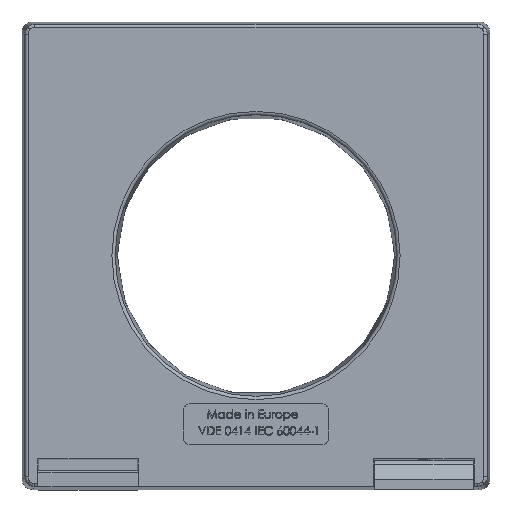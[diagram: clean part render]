
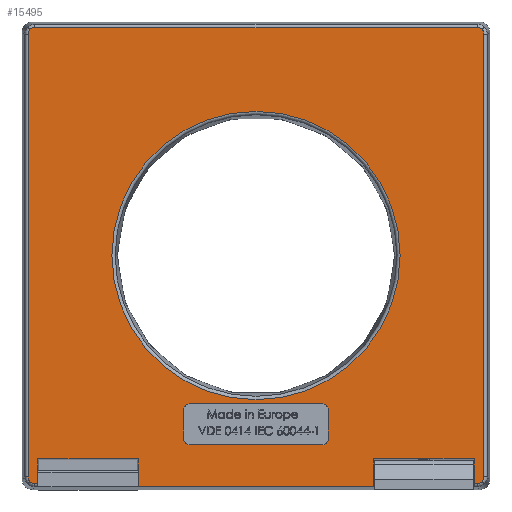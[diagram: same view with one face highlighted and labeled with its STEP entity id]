
A CAD part, top view. The second image highlights one B-rep face of the part: STEP entity #15495.
In plain terms, the highlighted planar face has unit normal (0, 0, 1).
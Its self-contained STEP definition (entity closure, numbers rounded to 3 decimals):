
#827=ELLIPSE('',#16362,0.927,0.848);
#829=ELLIPSE('',#16366,0.927,0.848);
#831=ELLIPSE('',#16370,0.927,0.848);
#833=ELLIPSE('',#16374,0.927,0.848);
#834=ELLIPSE('',#16385,0.927,0.848);
#835=ELLIPSE('',#16386,0.927,0.848);
#836=ELLIPSE('',#16387,0.927,0.848);
#837=ELLIPSE('',#16388,0.927,0.848);
#911=FACE_BOUND('',#1936,.T.);
#912=FACE_BOUND('',#1937,.T.);
#985=CIRCLE('',#16359,21.884);
#1000=CIRCLE('',#16389,1.);
#1001=CIRCLE('',#16390,1.);
#1002=CIRCLE('',#16391,1.);
#1003=CIRCLE('',#16392,1.);
#1060=FACE_OUTER_BOUND('',#1935,.T.);
#1935=EDGE_LOOP('',(#9981,#9982,#9983,#9984,#9985,#9986,#9987,#9988,#9989,
#9990,#9991,#9992,#9993,#9994,#9995,#9996,#9997,#9998,#9999,#10000));
#1936=EDGE_LOOP('',(#10001,#10002,#10003,#10004,#10005,#10006,#10007,#10008));
#1937=EDGE_LOOP('',(#10009));
#2844=LINE('',#19980,#4432);
#3018=LINE('',#21887,#4606);
#3019=LINE('',#21888,#4607);
#3020=LINE('',#21891,#4608);
#3021=LINE('',#21894,#4609);
#3022=LINE('',#21897,#4610);
#3023=LINE('',#21901,#4611);
#3024=LINE('',#21903,#4612);
#3025=LINE('',#21905,#4613);
#3026=LINE('',#21907,#4614);
#3027=LINE('',#21909,#4615);
#3028=LINE('',#21910,#4616);
#3029=LINE('',#21913,#4617);
#3030=LINE('',#21917,#4618);
#3031=LINE('',#21921,#4619);
#3032=LINE('',#21925,#4620);
#4432=VECTOR('',#17036,1000.);
#4606=VECTOR('',#17270,1000.);
#4607=VECTOR('',#17271,1000.);
#4608=VECTOR('',#17274,1000.);
#4609=VECTOR('',#17277,1000.);
#4610=VECTOR('',#17280,1000.);
#4611=VECTOR('',#17283,1000.);
#4612=VECTOR('',#17284,1000.);
#4613=VECTOR('',#17285,1000.);
#4614=VECTOR('',#17286,1000.);
#4615=VECTOR('',#17287,1000.);
#4616=VECTOR('',#17288,1000.);
#4617=VECTOR('',#17289,1000.);
#4618=VECTOR('',#17292,1000.);
#4619=VECTOR('',#17295,1000.);
#4620=VECTOR('',#17298,1000.);
#6020=VERTEX_POINT('',#19977);
#6021=VERTEX_POINT('',#19979);
#6024=VERTEX_POINT('',#19987);
#6027=VERTEX_POINT('',#20005);
#6028=VERTEX_POINT('',#20007);
#6031=VERTEX_POINT('',#20025);
#6032=VERTEX_POINT('',#20027);
#6035=VERTEX_POINT('',#20045);
#6036=VERTEX_POINT('',#20047);
#6039=VERTEX_POINT('',#20065);
#6040=VERTEX_POINT('',#20067);
#6302=VERTEX_POINT('',#21886);
#6303=VERTEX_POINT('',#21889);
#6304=VERTEX_POINT('',#21892);
#6305=VERTEX_POINT('',#21895);
#6306=VERTEX_POINT('',#21898);
#6307=VERTEX_POINT('',#21900);
#6308=VERTEX_POINT('',#21902);
#6309=VERTEX_POINT('',#21904);
#6310=VERTEX_POINT('',#21906);
#6311=VERTEX_POINT('',#21908);
#6312=VERTEX_POINT('',#21911);
#6313=VERTEX_POINT('',#21912);
#6314=VERTEX_POINT('',#21914);
#6315=VERTEX_POINT('',#21916);
#6316=VERTEX_POINT('',#21918);
#6317=VERTEX_POINT('',#21920);
#6318=VERTEX_POINT('',#21922);
#6319=VERTEX_POINT('',#21924);
#7484=EDGE_CURVE('',#6020,#6021,#2844,.T.);
#7489=EDGE_CURVE('',#6024,#6024,#985,.T.);
#7492=EDGE_CURVE('',#6028,#6027,#827,.T.);
#7496=EDGE_CURVE('',#6032,#6031,#829,.T.);
#7500=EDGE_CURVE('',#6036,#6035,#831,.T.);
#7504=EDGE_CURVE('',#6040,#6039,#833,.T.);
#7768=EDGE_CURVE('',#6302,#6020,#3018,.T.);
#7769=EDGE_CURVE('',#6302,#6028,#3019,.T.);
#7770=EDGE_CURVE('',#6027,#6303,#834,.T.);
#7771=EDGE_CURVE('',#6303,#6032,#3020,.T.);
#7772=EDGE_CURVE('',#6031,#6304,#835,.T.);
#7773=EDGE_CURVE('',#6304,#6036,#3021,.T.);
#7774=EDGE_CURVE('',#6035,#6305,#836,.T.);
#7775=EDGE_CURVE('',#6305,#6040,#3022,.T.);
#7776=EDGE_CURVE('',#6039,#6306,#837,.T.);
#7777=EDGE_CURVE('',#6306,#6307,#3023,.T.);
#7778=EDGE_CURVE('',#6308,#6307,#3024,.T.);
#7779=EDGE_CURVE('',#6309,#6308,#3025,.T.);
#7780=EDGE_CURVE('',#6310,#6309,#3026,.T.);
#7781=EDGE_CURVE('',#6310,#6311,#3027,.T.);
#7782=EDGE_CURVE('',#6021,#6311,#3028,.T.);
#7783=EDGE_CURVE('',#6312,#6313,#3029,.T.);
#7784=EDGE_CURVE('',#6312,#6314,#1000,.T.);
#7785=EDGE_CURVE('',#6315,#6314,#3030,.T.);
#7786=EDGE_CURVE('',#6315,#6316,#1001,.T.);
#7787=EDGE_CURVE('',#6317,#6316,#3031,.T.);
#7788=EDGE_CURVE('',#6317,#6318,#1002,.T.);
#7789=EDGE_CURVE('',#6319,#6318,#3032,.T.);
#7790=EDGE_CURVE('',#6319,#6313,#1003,.T.);
#9981=ORIENTED_EDGE('',*,*,#7768,.F.);
#9982=ORIENTED_EDGE('',*,*,#7769,.T.);
#9983=ORIENTED_EDGE('',*,*,#7492,.T.);
#9984=ORIENTED_EDGE('',*,*,#7770,.T.);
#9985=ORIENTED_EDGE('',*,*,#7771,.T.);
#9986=ORIENTED_EDGE('',*,*,#7496,.T.);
#9987=ORIENTED_EDGE('',*,*,#7772,.T.);
#9988=ORIENTED_EDGE('',*,*,#7773,.T.);
#9989=ORIENTED_EDGE('',*,*,#7500,.T.);
#9990=ORIENTED_EDGE('',*,*,#7774,.T.);
#9991=ORIENTED_EDGE('',*,*,#7775,.T.);
#9992=ORIENTED_EDGE('',*,*,#7504,.T.);
#9993=ORIENTED_EDGE('',*,*,#7776,.T.);
#9994=ORIENTED_EDGE('',*,*,#7777,.T.);
#9995=ORIENTED_EDGE('',*,*,#7778,.F.);
#9996=ORIENTED_EDGE('',*,*,#7779,.F.);
#9997=ORIENTED_EDGE('',*,*,#7780,.F.);
#9998=ORIENTED_EDGE('',*,*,#7781,.T.);
#9999=ORIENTED_EDGE('',*,*,#7782,.F.);
#10000=ORIENTED_EDGE('',*,*,#7484,.F.);
#10001=ORIENTED_EDGE('',*,*,#7783,.F.);
#10002=ORIENTED_EDGE('',*,*,#7784,.T.);
#10003=ORIENTED_EDGE('',*,*,#7785,.F.);
#10004=ORIENTED_EDGE('',*,*,#7786,.T.);
#10005=ORIENTED_EDGE('',*,*,#7787,.F.);
#10006=ORIENTED_EDGE('',*,*,#7788,.T.);
#10007=ORIENTED_EDGE('',*,*,#7789,.F.);
#10008=ORIENTED_EDGE('',*,*,#7790,.T.);
#10009=ORIENTED_EDGE('',*,*,#7489,.T.);
#14114=PLANE('',#16384);
#15495=ADVANCED_FACE('',(#1060,#911,#912),#14114,.T.);
#16359=AXIS2_PLACEMENT_3D('',#19989,#17046,#17047);
#16362=AXIS2_PLACEMENT_3D('',#20008,#17052,#17053);
#16366=AXIS2_PLACEMENT_3D('',#20028,#17060,#17061);
#16370=AXIS2_PLACEMENT_3D('',#20048,#17068,#17069);
#16374=AXIS2_PLACEMENT_3D('',#20068,#17076,#17077);
#16384=AXIS2_PLACEMENT_3D('',#21885,#17268,#17269);
#16385=AXIS2_PLACEMENT_3D('',#21890,#17272,#17273);
#16386=AXIS2_PLACEMENT_3D('',#21893,#17275,#17276);
#16387=AXIS2_PLACEMENT_3D('',#21896,#17278,#17279);
#16388=AXIS2_PLACEMENT_3D('',#21899,#17281,#17282);
#16389=AXIS2_PLACEMENT_3D('',#21915,#17290,#17291);
#16390=AXIS2_PLACEMENT_3D('',#21919,#17293,#17294);
#16391=AXIS2_PLACEMENT_3D('',#21923,#17296,#17297);
#16392=AXIS2_PLACEMENT_3D('',#21926,#17299,#17300);
#17036=DIRECTION('',(-1.,0.,0.));
#17046=DIRECTION('center_axis',(0.,0.,-1.));
#17047=DIRECTION('ref_axis',(1.,0.,0.));
#17052=DIRECTION('center_axis',(0.,0.,1.));
#17053=DIRECTION('ref_axis',(0.924,0.382,0.));
#17060=DIRECTION('center_axis',(0.,0.,1.));
#17061=DIRECTION('ref_axis',(0.382,-0.924,0.));
#17068=DIRECTION('center_axis',(0.,0.,1.));
#17069=DIRECTION('ref_axis',(0.924,0.382,0.));
#17076=DIRECTION('center_axis',(0.,0.,1.));
#17077=DIRECTION('ref_axis',(0.382,-0.924,0.));
#17268=DIRECTION('center_axis',(0.,0.,1.));
#17269=DIRECTION('ref_axis',(1.,0.,0.));
#17270=DIRECTION('',(0.,1.,0.));
#17271=DIRECTION('',(1.,0.,0.));
#17272=DIRECTION('center_axis',(0.,0.,1.));
#17273=DIRECTION('ref_axis',(-0.382,-0.924,0.));
#17274=DIRECTION('',(0.,1.,0.));
#17275=DIRECTION('center_axis',(0.,0.,1.));
#17276=DIRECTION('ref_axis',(0.924,-0.382,0.));
#17277=DIRECTION('',(-1.,0.,0.));
#17278=DIRECTION('center_axis',(0.,0.,1.));
#17279=DIRECTION('ref_axis',(-0.382,-0.924,0.));
#17280=DIRECTION('',(0.,-1.,0.));
#17281=DIRECTION('center_axis',(0.,0.,1.));
#17282=DIRECTION('ref_axis',(0.924,-0.382,0.));
#17283=DIRECTION('',(1.,0.,0.));
#17284=DIRECTION('',(0.,-1.,0.));
#17285=DIRECTION('',(-1.,0.,0.));
#17286=DIRECTION('',(0.,1.,0.));
#17287=DIRECTION('',(1.,0.,0.));
#17288=DIRECTION('',(0.,-1.,0.));
#17289=DIRECTION('',(0.,-1.,0.));
#17290=DIRECTION('center_axis',(0.,0.,-1.));
#17291=DIRECTION('ref_axis',(1.,0.,0.));
#17292=DIRECTION('',(-1.,0.,0.));
#17293=DIRECTION('center_axis',(0.,0.,-1.));
#17294=DIRECTION('ref_axis',(1.,0.,0.));
#17295=DIRECTION('',(0.,1.,0.));
#17296=DIRECTION('center_axis',(0.,0.,-1.));
#17297=DIRECTION('ref_axis',(1.,0.,0.));
#17298=DIRECTION('',(1.,0.,0.));
#17299=DIRECTION('center_axis',(0.,0.,-1.));
#17300=DIRECTION('ref_axis',(1.,0.,0.));
#19977=CARTESIAN_POINT('',(33.122,-30.878,22.5));
#19979=CARTESIAN_POINT('',(17.878,-30.878,22.5));
#19980=CARTESIAN_POINT('',(18.,-30.878,22.5));
#19987=CARTESIAN_POINT('',(-21.884,0.,22.5));
#19989=CARTESIAN_POINT('Origin',(0.,0.,22.5));
#20005=CARTESIAN_POINT('',(34.323,-34.323,22.5));
#20007=CARTESIAN_POINT('',(33.616,-34.616,22.5));
#20008=CARTESIAN_POINT('Origin',(33.674,-33.756,22.5));
#20025=CARTESIAN_POINT('',(34.323,34.323,22.5));
#20027=CARTESIAN_POINT('',(34.616,33.616,22.5));
#20028=CARTESIAN_POINT('Origin',(33.756,33.674,22.5));
#20045=CARTESIAN_POINT('',(-34.323,34.323,22.5));
#20047=CARTESIAN_POINT('',(-33.616,34.616,22.5));
#20048=CARTESIAN_POINT('Origin',(-33.674,33.756,22.5));
#20065=CARTESIAN_POINT('',(-34.323,-34.323,22.5));
#20067=CARTESIAN_POINT('',(-34.616,-33.616,22.5));
#20068=CARTESIAN_POINT('Origin',(-33.756,-33.674,22.5));
#21885=CARTESIAN_POINT('Origin',(-35.5,35.5,22.5));
#21886=CARTESIAN_POINT('',(33.122,-34.616,22.5));
#21887=CARTESIAN_POINT('',(33.122,-31.,22.5));
#21888=CARTESIAN_POINT('',(33.607,-34.616,22.5));
#21889=CARTESIAN_POINT('',(34.616,-33.616,22.5));
#21890=CARTESIAN_POINT('Origin',(33.756,-33.674,22.5));
#21891=CARTESIAN_POINT('',(34.616,33.607,22.5));
#21892=CARTESIAN_POINT('',(33.616,34.616,22.5));
#21893=CARTESIAN_POINT('Origin',(33.674,33.756,22.5));
#21894=CARTESIAN_POINT('',(-33.607,34.616,22.5));
#21895=CARTESIAN_POINT('',(-34.616,33.616,22.5));
#21896=CARTESIAN_POINT('Origin',(-33.756,33.674,22.5));
#21897=CARTESIAN_POINT('',(-34.616,-33.607,22.5));
#21898=CARTESIAN_POINT('',(-33.616,-34.616,22.5));
#21899=CARTESIAN_POINT('Origin',(-33.674,-33.756,22.5));
#21900=CARTESIAN_POINT('',(-33.122,-34.616,22.5));
#21901=CARTESIAN_POINT('',(-33.122,-34.616,22.5));
#21902=CARTESIAN_POINT('',(-33.122,-30.878,22.5));
#21903=CARTESIAN_POINT('',(-33.122,-31.,22.5));
#21904=CARTESIAN_POINT('',(-17.878,-30.878,22.5));
#21905=CARTESIAN_POINT('',(-18.,-30.878,22.5));
#21906=CARTESIAN_POINT('',(-17.878,-35.107,22.5));
#21907=CARTESIAN_POINT('',(-17.878,-31.,22.5));
#21908=CARTESIAN_POINT('',(17.878,-35.107,22.5));
#21909=CARTESIAN_POINT('',(-35.5,-35.107,22.5));
#21910=CARTESIAN_POINT('',(17.878,-31.,22.5));
#21911=CARTESIAN_POINT('',(-11.,-23.5,22.5));
#21912=CARTESIAN_POINT('',(-11.,-27.75,22.5));
#21913=CARTESIAN_POINT('',(-11.,-22.5,22.5));
#21914=CARTESIAN_POINT('',(-10.,-22.5,22.5));
#21915=CARTESIAN_POINT('Origin',(-10.,-23.5,22.5));
#21916=CARTESIAN_POINT('',(10.,-22.5,22.5));
#21917=CARTESIAN_POINT('',(-11.,-22.5,22.5));
#21918=CARTESIAN_POINT('',(11.,-23.5,22.5));
#21919=CARTESIAN_POINT('Origin',(10.,-23.5,22.5));
#21920=CARTESIAN_POINT('',(11.,-27.75,22.5));
#21921=CARTESIAN_POINT('',(11.,-22.5,22.5));
#21922=CARTESIAN_POINT('',(10.,-28.75,22.5));
#21923=CARTESIAN_POINT('Origin',(10.,-27.75,22.5));
#21924=CARTESIAN_POINT('',(-10.,-28.75,22.5));
#21925=CARTESIAN_POINT('',(-11.,-28.75,22.5));
#21926=CARTESIAN_POINT('Origin',(-10.,-27.75,22.5));
